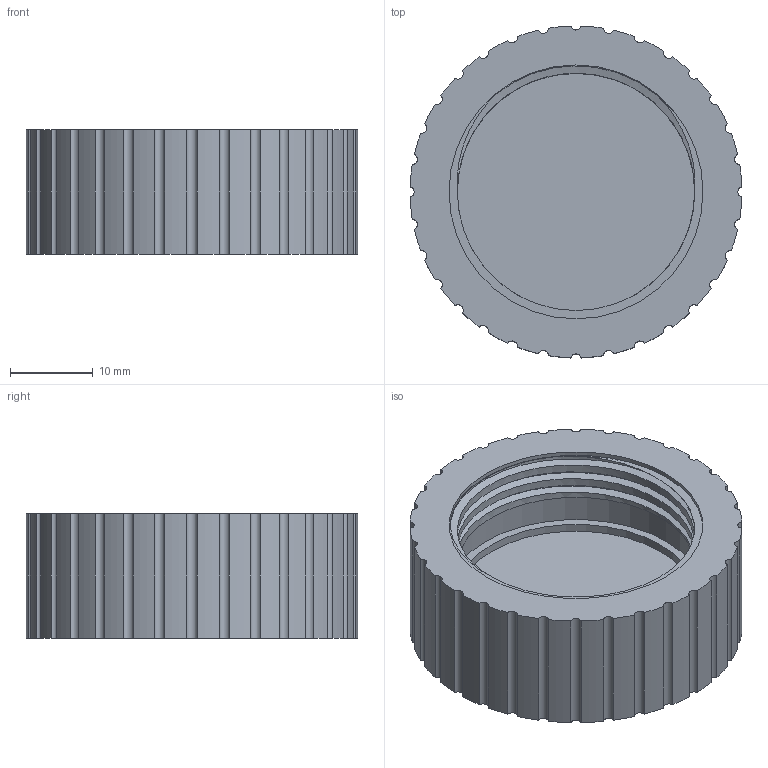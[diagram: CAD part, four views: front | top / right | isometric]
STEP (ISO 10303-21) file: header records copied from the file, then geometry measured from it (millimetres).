
FILE_DESCRIPTION(('Open CASCADE Model'),'2;1');
FILE_NAME('Open CASCADE Shape Model','2026-10-21T16:53:57',('Author'),( 'Open CASCADE'),'Open CASCADE STEP processor 7.9','Open CASCADE 7.9' ,'Unknown');
FILE_SCHEMA(('AUTOMOTIVE_DESIGN { 1 0 10303 214 1 1 1 1 }'));
Length unit declared in the file: millimetre
Products named in the file (1): Open CASCADE STEP translator 7.9 35
Bounding box: 39.98 x 39.98 x 15 mm (x, y, z)
Volume: 10985.3 mm3; surface area: 6083.3 mm2
Topology: 1 solids, 1 shells, 81 faces, 225 edges, 150 vertices
Faces by surface type: cylinder 71, plane 7, bspline 3
Full cylindrical faces by diameter (mm): 28.6 x3, 30.6 x2
Entity records: 7660 total; most frequent: CARTESIAN_POINT 3214, DIRECTION 873, ORIENTED_EDGE 450, PCURVE 450, DEFINITIONAL_REPRESENTATION 450, LINE 359, VECTOR 359, EDGE_CURVE 225
